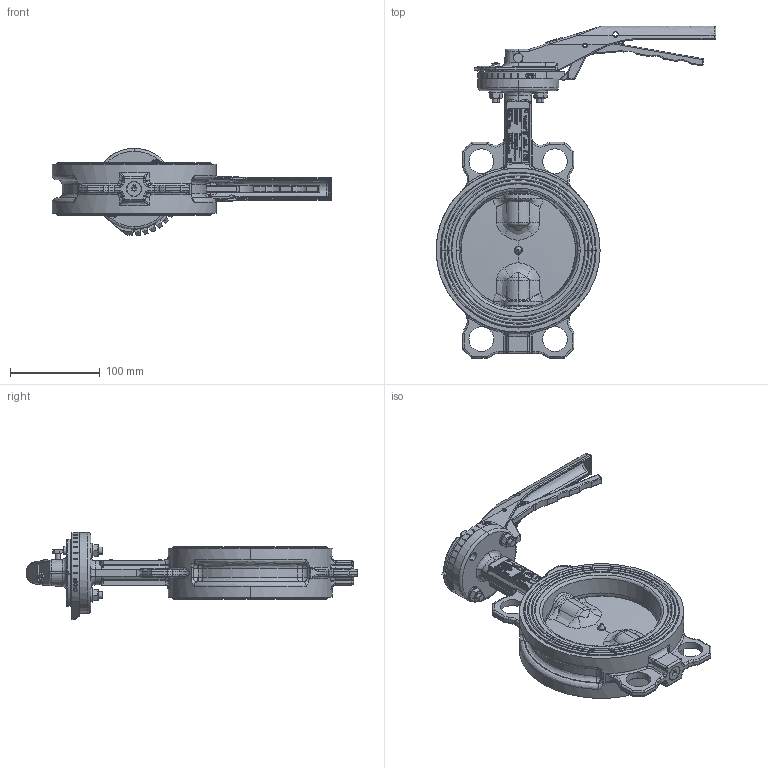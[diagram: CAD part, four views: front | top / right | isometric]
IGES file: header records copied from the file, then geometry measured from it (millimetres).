
Start section: SolidWorks IGES file using NURBS representation for surfaces
Global section: file name: H:\BE BIBLIOTHEQUE 3D\VPN-02 HANDLE (DN40 à 300)\VPN-02 DN125\VPN-02 DN125.IGS; native system: SolidWorks 2011; preprocessor: SolidWorks 2011; author: a.cartier; date: 140716.110039; units: millimetre
Bounding box: 311.25 x 369.5 x 96.92 mm (x, y, z)
Volume: 1117257.8 mm3; surface area: 341829.7 mm2
Topology: 27 solids, 27 shells, 4375 faces, 11274 edges, 7218 vertices
Faces by surface type: bspline 4375
